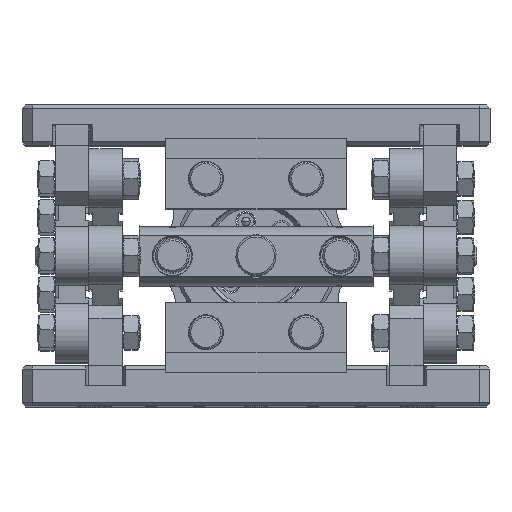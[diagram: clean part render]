
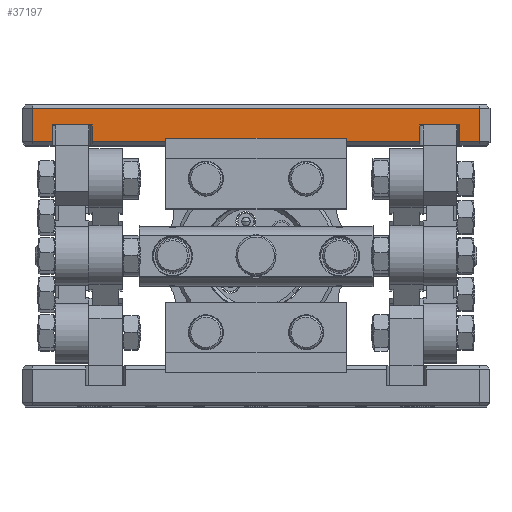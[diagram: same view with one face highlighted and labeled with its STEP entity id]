
A CAD part, top view. The second image highlights one B-rep face of the part: STEP entity #37197.
In plain terms, the highlighted planar face has unit normal (0, 0, 1).
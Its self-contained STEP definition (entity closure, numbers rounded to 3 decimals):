
#139 = CARTESIAN_POINT ( 'NONE',  ( 215.676, 230.893, 194.486 ) ) ;
#385 = CARTESIAN_POINT ( 'NONE',  ( 209.676, 220.893, 194.486 ) ) ;
#1787 = ORIENTED_EDGE ( 'NONE', *, *, #21684, .T. ) ;
#2379 = DIRECTION ( 'NONE',  ( 0., -1., 0. ) ) ;
#2606 = CARTESIAN_POINT ( 'NONE',  ( 78.676, 220.893, 194.486 ) ) ;
#2882 = EDGE_CURVE ( 'NONE', #9041, #42013, #12792, .T. ) ;
#2975 = ORIENTED_EDGE ( 'NONE', *, *, #9736, .T. ) ;
#3012 = VERTEX_POINT ( 'NONE', #9424 ) ;
#3237 = VECTOR ( 'NONE', #9141, 1000. ) ;
#3450 = ORIENTED_EDGE ( 'NONE', *, *, #5321, .T. ) ;
#4211 = DIRECTION ( 'NONE',  ( -1., 0., 0. ) ) ;
#4455 = FACE_OUTER_BOUND ( 'NONE', #13270, .T. ) ;
#5321 = EDGE_CURVE ( 'NONE', #38452, #58981, #39812, .T. ) ;
#6431 = LINE ( 'NONE', #65334, #3237 ) ;
#6760 = DIRECTION ( 'NONE',  ( 0., -1., 0. ) ) ;
#7419 = ORIENTED_EDGE ( 'NONE', *, *, #19043, .T. ) ;
#7817 = EDGE_CURVE ( 'NONE', #23253, #27788, #57216, .T. ) ;
#7911 = EDGE_CURVE ( 'NONE', #43678, #3012, #64459, .T. ) ;
#7919 = LINE ( 'NONE', #19835, #47289 ) ;
#8739 = CARTESIAN_POINT ( 'NONE',  ( 81.676, 230.893, 194.486 ) ) ;
#9041 = VERTEX_POINT ( 'NONE', #13492 ) ;
#9141 = DIRECTION ( 'NONE',  ( 1., 0., 0. ) ) ;
#9185 = DIRECTION ( 'NONE',  ( 0., 1., 0. ) ) ;
#9424 = CARTESIAN_POINT ( 'NONE',  ( 197.676, 220.893, 194.486 ) ) ;
#9580 = VECTOR ( 'NONE', #50237, 1000. ) ;
#9736 = EDGE_CURVE ( 'NONE', #38453, #41930, #24032, .T. ) ;
#11024 = ORIENTED_EDGE ( 'NONE', *, *, #18281, .T. ) ;
#11058 = ORIENTED_EDGE ( 'NONE', *, *, #2882, .T. ) ;
#11097 = EDGE_CURVE ( 'NONE', #61880, #56168, #16621, .T. ) ;
#11377 = VECTOR ( 'NONE', #60007, 1000. ) ;
#12547 = VECTOR ( 'NONE', #45237, 1000. ) ;
#12792 = LINE ( 'NONE', #34158, #9580 ) ;
#13211 = VECTOR ( 'NONE', #15512, 1000. ) ;
#13270 = EDGE_LOOP ( 'NONE', ( #25337, #19588, #2975, #32051, #31673, #60052, #11024, #21871, #63043, #34476, #11058, #64580, #1787, #3450, #7419, #16596 ) ) ;
#13492 = CARTESIAN_POINT ( 'NONE',  ( 209.676, 225.893, 194.486 ) ) ;
#13975 = VECTOR ( 'NONE', #54772, 1000. ) ;
#14469 = VECTOR ( 'NONE', #41372, 1000. ) ;
#15217 = DIRECTION ( 'NONE',  ( 1., 0., 0. ) ) ;
#15512 = DIRECTION ( 'NONE',  ( 0., -1., 0. ) ) ;
#15602 = VERTEX_POINT ( 'NONE', #35629 ) ;
#16596 = ORIENTED_EDGE ( 'NONE', *, *, #19097, .T. ) ;
#16621 = LINE ( 'NONE', #63972, #56022 ) ;
#17916 = DIRECTION ( 'NONE',  ( 1., 0., 0. ) ) ;
#18177 = DIRECTION ( 'NONE',  ( 1., 0., 0. ) ) ;
#18281 = EDGE_CURVE ( 'NONE', #27788, #51928, #38177, .T. ) ;
#19043 = EDGE_CURVE ( 'NONE', #58981, #15602, #66317, .T. ) ;
#19097 = EDGE_CURVE ( 'NONE', #15602, #56168, #63046, .T. ) ;
#19588 = ORIENTED_EDGE ( 'NONE', *, *, #22646, .F. ) ;
#19835 = CARTESIAN_POINT ( 'NONE',  ( 148.676, 225.893, 194.486 ) ) ;
#21105 = DIRECTION ( 'NONE',  ( 1., 0., 0. ) ) ;
#21384 = LINE ( 'NONE', #35119, #12547 ) ;
#21635 = CARTESIAN_POINT ( 'NONE',  ( 87.676, 225.893, 194.486 ) ) ;
#21684 = EDGE_CURVE ( 'NONE', #52818, #38452, #44227, .T. ) ;
#21871 = ORIENTED_EDGE ( 'NONE', *, *, #34216, .T. ) ;
#22060 = CARTESIAN_POINT ( 'NONE',  ( 175.676, 221.893, 194.486 ) ) ;
#22646 = EDGE_CURVE ( 'NONE', #38453, #61880, #7919, .T. ) ;
#22744 = EDGE_CURVE ( 'NONE', #43678, #9041, #28137, .T. ) ;
#23253 = VERTEX_POINT ( 'NONE', #36113 ) ;
#24032 = LINE ( 'NONE', #36073, #61800 ) ;
#25337 = ORIENTED_EDGE ( 'NONE', *, *, #11097, .F. ) ;
#26153 = VECTOR ( 'NONE', #4211, 1000. ) ;
#26437 = CARTESIAN_POINT ( 'NONE',  ( 175.676, 220.893, 194.486 ) ) ;
#26663 = VERTEX_POINT ( 'NONE', #53642 ) ;
#27788 = VERTEX_POINT ( 'NONE', #33512 ) ;
#28137 = LINE ( 'NONE', #46288, #14469 ) ;
#29172 = CARTESIAN_POINT ( 'NONE',  ( 78.676, 220.893, 194.486 ) ) ;
#29796 = CARTESIAN_POINT ( 'NONE',  ( 81.676, 230.893, 194.486 ) ) ;
#31673 = ORIENTED_EDGE ( 'NONE', *, *, #50694, .F. ) ;
#32051 = ORIENTED_EDGE ( 'NONE', *, *, #44040, .T. ) ;
#32966 = CARTESIAN_POINT ( 'NONE',  ( 87.676, 220.893, 194.486 ) ) ;
#33068 = VECTOR ( 'NONE', #18177, 1000. ) ;
#33512 = CARTESIAN_POINT ( 'NONE',  ( 175.676, 221.893, 194.486 ) ) ;
#34158 = CARTESIAN_POINT ( 'NONE',  ( 209.676, 225.893, 194.486 ) ) ;
#34216 = EDGE_CURVE ( 'NONE', #51928, #3012, #6431, .T. ) ;
#34476 = ORIENTED_EDGE ( 'NONE', *, *, #22744, .T. ) ;
#35119 = CARTESIAN_POINT ( 'NONE',  ( 121.676, 221.893, 194.486 ) ) ;
#35340 = CARTESIAN_POINT ( 'NONE',  ( 148.676, 221.893, 194.486 ) ) ;
#35629 = CARTESIAN_POINT ( 'NONE',  ( 81.676, 220.893, 194.486 ) ) ;
#35934 = CARTESIAN_POINT ( 'NONE',  ( 81.676, 219.893, 194.486 ) ) ;
#36073 = CARTESIAN_POINT ( 'NONE',  ( 99.676, 225.893, 194.486 ) ) ;
#36113 = CARTESIAN_POINT ( 'NONE',  ( 121.676, 221.893, 194.486 ) ) ;
#36121 = CARTESIAN_POINT ( 'NONE',  ( 99.676, 225.893, 194.486 ) ) ;
#37197 = ADVANCED_FACE ( 'NONE', ( #4455 ), #40822, .F. ) ;
#38177 = LINE ( 'NONE', #22060, #65592 ) ;
#38452 = VERTEX_POINT ( 'NONE', #139 ) ;
#38453 = VERTEX_POINT ( 'NONE', #36121 ) ;
#39812 = LINE ( 'NONE', #29796, #26153 ) ;
#40217 = CARTESIAN_POINT ( 'NONE',  ( 197.676, 225.893, 194.486 ) ) ;
#40375 = CARTESIAN_POINT ( 'NONE',  ( 78.676, 219.893, 194.486 ) ) ;
#40822 = PLANE ( 'NONE',  #45171 ) ;
#41372 = DIRECTION ( 'NONE',  ( 1., 0., 0. ) ) ;
#41930 = VERTEX_POINT ( 'NONE', #66109 ) ;
#42013 = VERTEX_POINT ( 'NONE', #385 ) ;
#42703 = LINE ( 'NONE', #2606, #44321 ) ;
#42887 = LINE ( 'NONE', #29172, #13975 ) ;
#43678 = VERTEX_POINT ( 'NONE', #61572 ) ;
#44040 = EDGE_CURVE ( 'NONE', #41930, #26663, #42887, .T. ) ;
#44227 = LINE ( 'NONE', #45108, #56312 ) ;
#44321 = VECTOR ( 'NONE', #17916, 1000. ) ;
#45108 = CARTESIAN_POINT ( 'NONE',  ( 215.676, 219.893, 194.486 ) ) ;
#45171 = AXIS2_PLACEMENT_3D ( 'NONE', #40375, #45946, #15217 ) ;
#45237 = DIRECTION ( 'NONE',  ( 0., -1., 0. ) ) ;
#45946 = DIRECTION ( 'NONE',  ( 0., 0., -1. ) ) ;
#46164 = EDGE_CURVE ( 'NONE', #42013, #52818, #42703, .T. ) ;
#46288 = CARTESIAN_POINT ( 'NONE',  ( 148.676, 225.893, 194.486 ) ) ;
#46397 = DIRECTION ( 'NONE',  ( 0., -1., 0. ) ) ;
#47289 = VECTOR ( 'NONE', #65933, 1000. ) ;
#50237 = DIRECTION ( 'NONE',  ( 0., -1., 0. ) ) ;
#50694 = EDGE_CURVE ( 'NONE', #23253, #26663, #21384, .T. ) ;
#50969 = VECTOR ( 'NONE', #21105, 1000. ) ;
#51874 = CARTESIAN_POINT ( 'NONE',  ( 78.676, 220.893, 194.486 ) ) ;
#51928 = VERTEX_POINT ( 'NONE', #26437 ) ;
#52818 = VERTEX_POINT ( 'NONE', #53336 ) ;
#53336 = CARTESIAN_POINT ( 'NONE',  ( 215.676, 220.893, 194.486 ) ) ;
#53642 = CARTESIAN_POINT ( 'NONE',  ( 121.676, 220.893, 194.486 ) ) ;
#54772 = DIRECTION ( 'NONE',  ( 1., 0., 0. ) ) ;
#56022 = VECTOR ( 'NONE', #2379, 1000. ) ;
#56168 = VERTEX_POINT ( 'NONE', #32966 ) ;
#56312 = VECTOR ( 'NONE', #9185, 1000. ) ;
#57216 = LINE ( 'NONE', #35340, #33068 ) ;
#58981 = VERTEX_POINT ( 'NONE', #8739 ) ;
#60007 = DIRECTION ( 'NONE',  ( 0., -1., 0. ) ) ;
#60052 = ORIENTED_EDGE ( 'NONE', *, *, #7817, .T. ) ;
#61572 = CARTESIAN_POINT ( 'NONE',  ( 197.676, 225.893, 194.486 ) ) ;
#61800 = VECTOR ( 'NONE', #46397, 1000. ) ;
#61880 = VERTEX_POINT ( 'NONE', #21635 ) ;
#63043 = ORIENTED_EDGE ( 'NONE', *, *, #7911, .F. ) ;
#63046 = LINE ( 'NONE', #51874, #50969 ) ;
#63972 = CARTESIAN_POINT ( 'NONE',  ( 87.676, 225.893, 194.486 ) ) ;
#64459 = LINE ( 'NONE', #40217, #11377 ) ;
#64580 = ORIENTED_EDGE ( 'NONE', *, *, #46164, .T. ) ;
#65334 = CARTESIAN_POINT ( 'NONE',  ( 78.676, 220.893, 194.486 ) ) ;
#65592 = VECTOR ( 'NONE', #6760, 1000. ) ;
#65933 = DIRECTION ( 'NONE',  ( -1., 0., 0. ) ) ;
#66109 = CARTESIAN_POINT ( 'NONE',  ( 99.676, 220.893, 194.486 ) ) ;
#66317 = LINE ( 'NONE', #35934, #13211 ) ;
